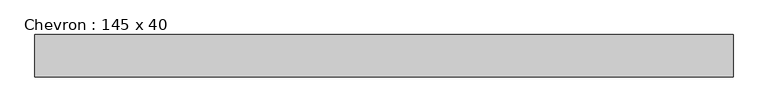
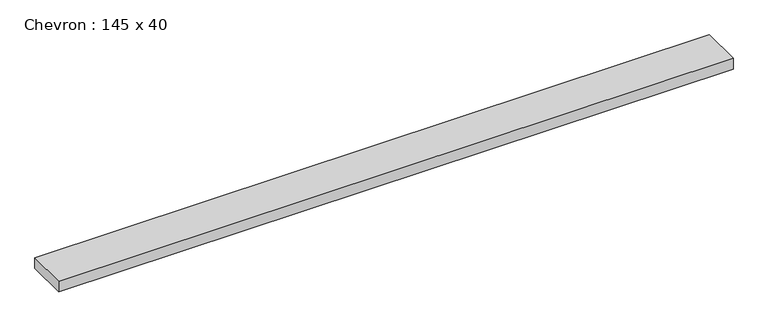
"""IFC4 building model written with IfcOpenShell, lengths in millimetres: beam geometry, Chevron : 145 x 40."""

from ifc_helpers import new_model, si_unit, frame, origin, place, context, project, spatial, polyline, outline, extrude, source, transform, mapped, element, save


def chevron_145_x_40_2b96ad9e(model_context):
    return source(origin(), model_context, "Body", "SweptSolid", [
        extrude(outline(polyline([(1179.5, 72.5), (1179.5, -72.5), (-1212.5196813, -72.5), (-1212.5196813, 72.5), (1179.5, 72.5)])), frame((0.0, 0.0, -20.0), z_axis=(0.0, 0.0, 1.0), x_axis=(1.0, 0.0, 0.0)), (0.0, 0.0, 1.0), 40.0),
    ])


if __name__ == "__main__":
    model = new_model("IFC4")
    model_context = context("Model", 3, world=origin())
    ifc_project = project(units=[si_unit("LENGTHUNIT", "METRE", prefix="MILLI")], contexts=[model_context])
    site = spatial("IfcSite", under=ifc_project)
    building = spatial("IfcBuilding", under=site)
    placement = place(None, origin())
    chevron_145_x_40_shape = chevron_145_x_40_2b96ad9e(model_context)
    element("IfcBeam", 1, ObjectType="Chevron : 145 x 40", at=placement, inside=building, context=model_context, shape_type="MappedRepresentation", body=[
        mapped(chevron_145_x_40_shape, transform((0.0, 0.0, 0.0), x_axis=(1.0, 0.0, 0.0), y_axis=(0.0, 1.0, 0.0), z_axis=(0.0, 0.0, 1.0))),
    ])
    save(model, "model.ifc")
